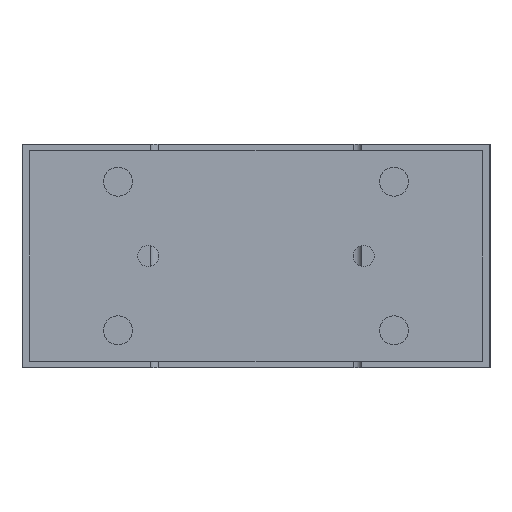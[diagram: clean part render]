
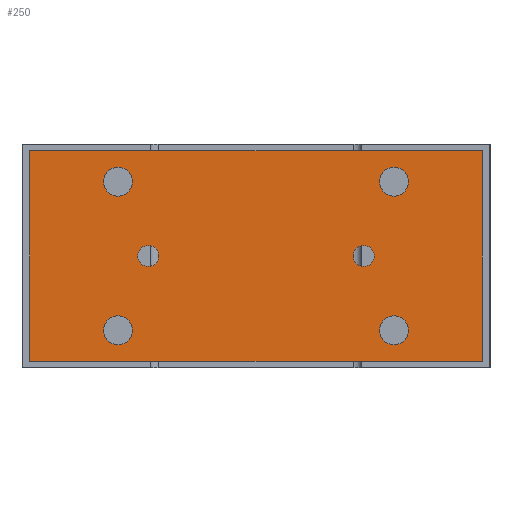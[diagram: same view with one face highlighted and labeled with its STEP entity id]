
A CAD part, left-side view. The second image highlights one B-rep face of the part: STEP entity #250.
In plain terms, the highlighted planar face has unit normal (-1, 0, 0).
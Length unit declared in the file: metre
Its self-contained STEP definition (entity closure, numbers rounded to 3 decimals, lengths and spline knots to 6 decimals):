
#250 = ADVANCED_FACE( '', ( #696, #697, #698, #699, #700, #701, #702 ), #703, .T. );
#696 = FACE_BOUND( '', #1496, .T. );
#697 = FACE_BOUND( '', #1497, .T. );
#698 = FACE_BOUND( '', #1498, .T. );
#699 = FACE_BOUND( '', #1499, .T. );
#700 = FACE_BOUND( '', #1500, .T. );
#701 = FACE_BOUND( '', #1501, .T. );
#702 = FACE_OUTER_BOUND( '', #1502, .T. );
#703 = PLANE( '', #1503 );
#1496 = EDGE_LOOP( '', ( #2305 ) );
#1497 = EDGE_LOOP( '', ( #2306 ) );
#1498 = EDGE_LOOP( '', ( #2307 ) );
#1499 = EDGE_LOOP( '', ( #2308 ) );
#1500 = EDGE_LOOP( '', ( #2309 ) );
#1501 = EDGE_LOOP( '', ( #2310 ) );
#1502 = EDGE_LOOP( '', ( #2311, #2312, #2313, #2314 ) );
#1503 = AXIS2_PLACEMENT_3D( '', #2315, #2316, #2317 );
#2305 = ORIENTED_EDGE( '', *, *, #3830, .F. );
#2306 = ORIENTED_EDGE( '', *, *, #3831, .F. );
#2307 = ORIENTED_EDGE( '', *, *, #3832, .F. );
#2308 = ORIENTED_EDGE( '', *, *, #3833, .F. );
#2309 = ORIENTED_EDGE( '', *, *, #3834, .F. );
#2310 = ORIENTED_EDGE( '', *, *, #3835, .T. );
#2311 = ORIENTED_EDGE( '', *, *, #3836, .T. );
#2312 = ORIENTED_EDGE( '', *, *, #3837, .T. );
#2313 = ORIENTED_EDGE( '', *, *, #3838, .T. );
#2314 = ORIENTED_EDGE( '', *, *, #3839, .T. );
#2315 = CARTESIAN_POINT( '', ( -0.118, -0.086, -0.0025 ) );
#2316 = DIRECTION( '', ( -1., 0., 0. ) );
#2317 = DIRECTION( '', ( 0., 0., 1. ) );
#3830 = EDGE_CURVE( '', #4411, #4411, #4412, .T. );
#3831 = EDGE_CURVE( '', #4413, #4413, #4414, .T. );
#3832 = EDGE_CURVE( '', #4415, #4415, #4416, .T. );
#3833 = EDGE_CURVE( '', #4417, #4417, #4418, .T. );
#3834 = EDGE_CURVE( '', #4419, #4419, #4420, .T. );
#3835 = EDGE_CURVE( '', #4421, #4421, #4422, .T. );
#3836 = EDGE_CURVE( '', #4423, #4424, #4425, .T. );
#3837 = EDGE_CURVE( '', #4424, #4426, #4427, .T. );
#3838 = EDGE_CURVE( '', #4426, #4428, #4429, .T. );
#3839 = EDGE_CURVE( '', #4428, #4423, #4430, .T. );
#4411 = VERTEX_POINT( '', #5253 );
#4412 = CIRCLE( '', #5254, 0.0055 );
#4413 = VERTEX_POINT( '', #5255 );
#4414 = CIRCLE( '', #5256, 0.0055 );
#4415 = VERTEX_POINT( '', #5257 );
#4416 = CIRCLE( '', #5258, 0.0055 );
#4417 = VERTEX_POINT( '', #5259 );
#4418 = CIRCLE( '', #5260, 0.0055 );
#4419 = VERTEX_POINT( '', #5261 );
#4420 = CIRCLE( '', #5262, 0.004 );
#4421 = VERTEX_POINT( '', #5263 );
#4422 = CIRCLE( '', #5264, 0.004 );
#4423 = VERTEX_POINT( '', #5265 );
#4424 = VERTEX_POINT( '', #5266 );
#4425 = LINE( '', #5267, #5268 );
#4426 = VERTEX_POINT( '', #5269 );
#4427 = LINE( '', #5270, #5271 );
#4428 = VERTEX_POINT( '', #5272 );
#4429 = LINE( '', #5273, #5274 );
#4430 = LINE( '', #5275, #5276 );
#5253 = CARTESIAN_POINT( '', ( -0.118, -0.0525, -0.06525 ) );
#5254 = AXIS2_PLACEMENT_3D( '', #6532, #6533, #6534 );
#5255 = CARTESIAN_POINT( '', ( -0.118, 0.0525, -0.06525 ) );
#5256 = AXIS2_PLACEMENT_3D( '', #6535, #6536, #6537 );
#5257 = CARTESIAN_POINT( '', ( -0.118, -0.0525, -0.00875 ) );
#5258 = AXIS2_PLACEMENT_3D( '', #6538, #6539, #6540 );
#5259 = CARTESIAN_POINT( '', ( -0.118, 0.0525, -0.00875 ) );
#5260 = AXIS2_PLACEMENT_3D( '', #6541, #6542, #6543 );
#5261 = CARTESIAN_POINT( '', ( -0.118, -0.037, -0.0425 ) );
#5262 = AXIS2_PLACEMENT_3D( '', #6544, #6545, #6546 );
#5263 = CARTESIAN_POINT( '', ( -0.118, 0.037, -0.0425 ) );
#5264 = AXIS2_PLACEMENT_3D( '', #6547, #6548, #6549 );
#5265 = CARTESIAN_POINT( '', ( -0.118, -0.086, -0.0825 ) );
#5266 = CARTESIAN_POINT( '', ( -0.118, -0.086, -0.0025 ) );
#5267 = CARTESIAN_POINT( '', ( -0.118, -0.086, -0.0825 ) );
#5268 = VECTOR( '', #6550, 1. );
#5269 = CARTESIAN_POINT( '', ( -0.118, 0.086, -0.0025 ) );
#5270 = CARTESIAN_POINT( '', ( -0.118, -0.086, -0.0025 ) );
#5271 = VECTOR( '', #6551, 1. );
#5272 = CARTESIAN_POINT( '', ( -0.118, 0.086, -0.0825 ) );
#5273 = CARTESIAN_POINT( '', ( -0.118, 0.086, -0.0025 ) );
#5274 = VECTOR( '', #6552, 1. );
#5275 = CARTESIAN_POINT( '', ( -0.118, 0.086, -0.0825 ) );
#5276 = VECTOR( '', #6553, 1. );
#6532 = CARTESIAN_POINT( '', ( -0.118, -0.0525, -0.07075 ) );
#6533 = DIRECTION( '', ( -1., 0., 0. ) );
#6534 = DIRECTION( '', ( 0., 0., 1. ) );
#6535 = CARTESIAN_POINT( '', ( -0.118, 0.0525, -0.07075 ) );
#6536 = DIRECTION( '', ( -1., 0., 0. ) );
#6537 = DIRECTION( '', ( 0., 0., 1. ) );
#6538 = CARTESIAN_POINT( '', ( -0.118, -0.0525, -0.01425 ) );
#6539 = DIRECTION( '', ( -1., 0., 0. ) );
#6540 = DIRECTION( '', ( 0., 0., 1. ) );
#6541 = CARTESIAN_POINT( '', ( -0.118, 0.0525, -0.01425 ) );
#6542 = DIRECTION( '', ( -1., 0., 0. ) );
#6543 = DIRECTION( '', ( 0., 0., 1. ) );
#6544 = CARTESIAN_POINT( '', ( -0.118, -0.041, -0.0425 ) );
#6545 = DIRECTION( '', ( -1., 0., 0. ) );
#6546 = DIRECTION( '', ( 0., 1., 0. ) );
#6547 = CARTESIAN_POINT( '', ( -0.118, 0.041, -0.0425 ) );
#6548 = DIRECTION( '', ( 1., 0., 0. ) );
#6549 = DIRECTION( '', ( 0., -1., 0. ) );
#6550 = DIRECTION( '', ( 0., 0., 1. ) );
#6551 = DIRECTION( '', ( 0., 1., 0. ) );
#6552 = DIRECTION( '', ( 0., 0., -1. ) );
#6553 = DIRECTION( '', ( 0., -1., 0. ) );
